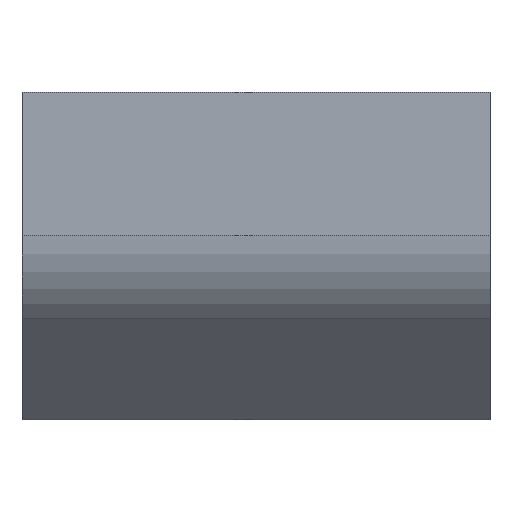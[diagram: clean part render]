
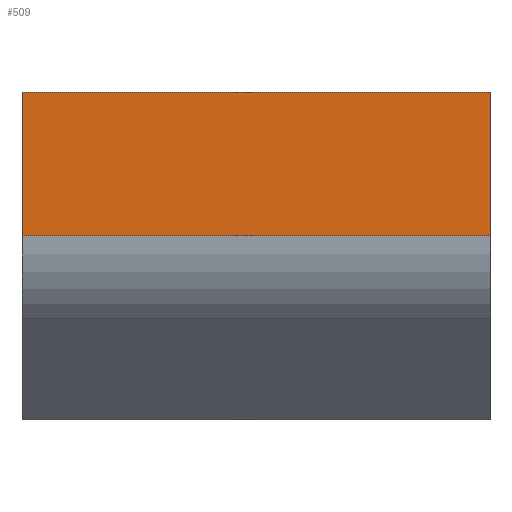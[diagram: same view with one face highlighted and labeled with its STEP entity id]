
A CAD part, front view. The second image highlights one B-rep face of the part: STEP entity #509.
In plain terms, the highlighted planar face has unit normal (0, -1, 0).
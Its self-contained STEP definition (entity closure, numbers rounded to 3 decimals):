
#66 = AXIS2_PLACEMENT_3D ( 'NONE', #167, #830, #317 ) ;
#100 = CARTESIAN_POINT ( 'NONE',  ( 150., -75., -91.777 ) ) ;
#162 = VERTEX_POINT ( 'NONE', #490 ) ;
#167 = CARTESIAN_POINT ( 'NONE',  ( 150., -75., -91.777 ) ) ;
#227 = VECTOR ( 'NONE', #588, 1000. ) ;
#283 = EDGE_CURVE ( 'NONE', #798, #162, #1260, .T. ) ;
#317 = DIRECTION ( 'NONE',  ( 0., 0., 1. ) ) ;
#333 = DIRECTION ( 'NONE',  ( -1., 0., 0. ) ) ;
#388 = VECTOR ( 'NONE', #333, 1000. ) ;
#390 = VECTOR ( 'NONE', #614, 1000. ) ;
#431 = ORIENTED_EDGE ( 'NONE', *, *, #1039, .T. ) ;
#490 = CARTESIAN_POINT ( 'NONE',  ( -150., -75., -91.777 ) ) ;
#509 = ADVANCED_FACE ( 'NONE', ( #811 ), #1457, .F. ) ;
#587 = LINE ( 'NONE', #1629, #388 ) ;
#588 = DIRECTION ( 'NONE',  ( 0., 0., -1. ) ) ;
#614 = DIRECTION ( 'NONE',  ( -1., 0., 0. ) ) ;
#634 = LINE ( 'NONE', #1157, #662 ) ;
#662 = VECTOR ( 'NONE', #1265, 1000. ) ;
#798 = VERTEX_POINT ( 'NONE', #887 ) ;
#811 = FACE_OUTER_BOUND ( 'NONE', #1539, .T. ) ;
#830 = DIRECTION ( 'NONE',  ( 0., 1., 0. ) ) ;
#843 = CARTESIAN_POINT ( 'NONE',  ( -150., -75., -91.777 ) ) ;
#855 = CARTESIAN_POINT ( 'NONE',  ( -150., -75., 0. ) ) ;
#887 = CARTESIAN_POINT ( 'NONE',  ( 150., -75., -91.777 ) ) ;
#908 = VERTEX_POINT ( 'NONE', #925 ) ;
#925 = CARTESIAN_POINT ( 'NONE',  ( 150., -75., 0. ) ) ;
#1037 = ORIENTED_EDGE ( 'NONE', *, *, #1452, .T. ) ;
#1039 = EDGE_CURVE ( 'NONE', #1231, #162, #1479, .T. ) ;
#1157 = CARTESIAN_POINT ( 'NONE',  ( 150., -75., -91.777 ) ) ;
#1231 = VERTEX_POINT ( 'NONE', #855 ) ;
#1260 = LINE ( 'NONE', #100, #390 ) ;
#1265 = DIRECTION ( 'NONE',  ( 0., 0., -1. ) ) ;
#1358 = EDGE_CURVE ( 'NONE', #908, #798, #634, .T. ) ;
#1378 = ORIENTED_EDGE ( 'NONE', *, *, #1358, .F. ) ;
#1452 = EDGE_CURVE ( 'NONE', #908, #1231, #587, .T. ) ;
#1457 = PLANE ( 'NONE',  #66 ) ;
#1479 = LINE ( 'NONE', #843, #227 ) ;
#1539 = EDGE_LOOP ( 'NONE', ( #431, #1654, #1378, #1037 ) ) ;
#1629 = CARTESIAN_POINT ( 'NONE',  ( 150., -75., 0. ) ) ;
#1654 = ORIENTED_EDGE ( 'NONE', *, *, #283, .F. ) ;
